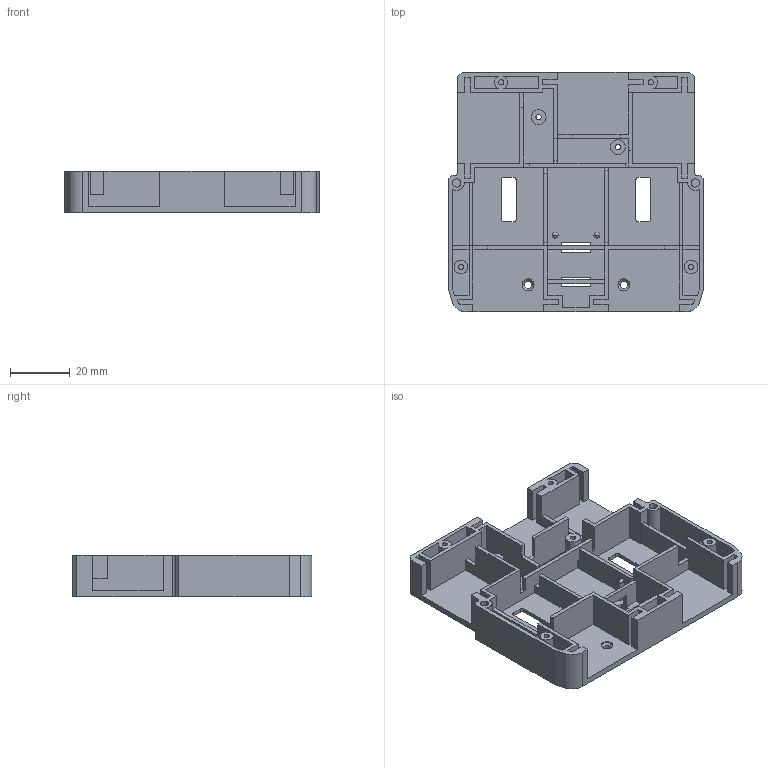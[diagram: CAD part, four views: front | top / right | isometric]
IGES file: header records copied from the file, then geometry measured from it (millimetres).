
Global section: file name: Filename.iges; native system: Open CASCADE 7.5; preprocessor: Open CASCADE IGES processor 7.5; date: 20210414.164134; units: millimetre
Bounding box: 85 x 80 x 14 mm (x, y, z)
Surface area: 30385 mm2 (no closed solid volume)
Topology: 0 solids, 0 shells, 284 faces, 1622 edges, 1618 vertices
Faces by surface type: bspline 217, revolution 67
